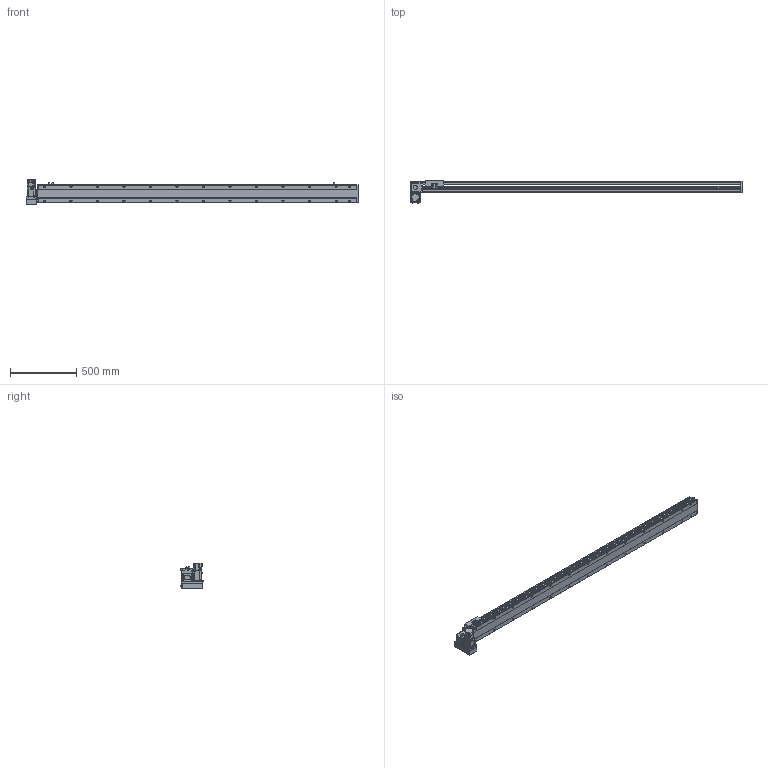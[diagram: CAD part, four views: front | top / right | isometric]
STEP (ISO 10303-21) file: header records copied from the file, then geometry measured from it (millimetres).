
FILE_DESCRIPTION( ( 'STEP AP214' ), '1' );
FILE_NAME( 'x:/temp/worker_6/temp/exporttempdir_5396_108_P31CZ/format_0/PBS140S-P40-S2150-LD-T40-C1-N(0).stp', '2022-06-09T00:28:38', ( 'License CC BY-ND 4.0' ), ( 'CADENAS' ), ' ', 'PARTsolutions', ' ' );
FILE_SCHEMA( ( 'AUTOMOTIVE_DESIGN { 1 0 10303 214 1 1 1 1 }' ) );
Length unit declared in the file: millimetre
Products named in the file (7): PBS140S-P40-S2150-LD-T40-C1-N(0); _PBS140S-S2150()_body; _PBS140ST-LD_motors; _T40-p1; _PBS140S_sliser; _PBS140S_plant; _PBS140S_sensor
Assembly tree (8 placements, depth 2):
  PBS140S-P40-S2150-LD-T40-C1-N(0)
    _PBS140S-S2150()_body
    _PBS140ST-LD_motors
    _T40-p1
    _PBS140S_sliser
    _PBS140S_plant
    _PBS140S_sensor  x3
Bounding box: 2504 x 172.5 x 189.7 mm (x, y, z)
Volume: 12275607 mm3; surface area: 2076292.2 mm2
Topology: 8 solids, 8 shells, 1179 faces, 3111 edges, 2035 vertices
Faces by surface type: plane 732, cylinder 385, cone 52, sphere 8, torus 2
Full cylindrical faces by diameter (mm): 3.242 x4, 4 x2, 4.134 x4, 4.4 x8, 4.5 x2, 4.8 x4, 4.917 x34, 5.5 x7, 6 x2, 7 x28, 7.5 x8, 8 x12, 8.5 x4, 10.5 x26, 14 x1, 30 x2, 50 x2
Entity records: 43546 total; most frequent: CARTESIAN_POINT 7246, DIRECTION 5698, ORIENTED_EDGE 5362, EDGE_CURVE 2681, AXIS2_PLACEMENT_3D 2009, VERTEX_POINT 1873, LINE 1680, VECTOR 1680
